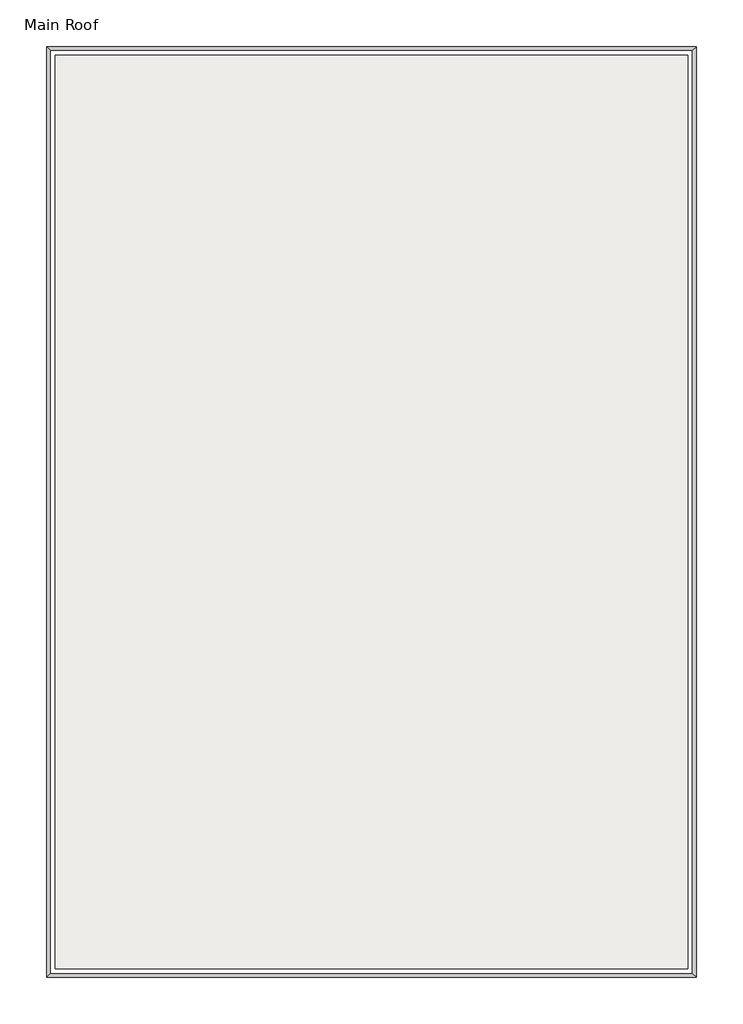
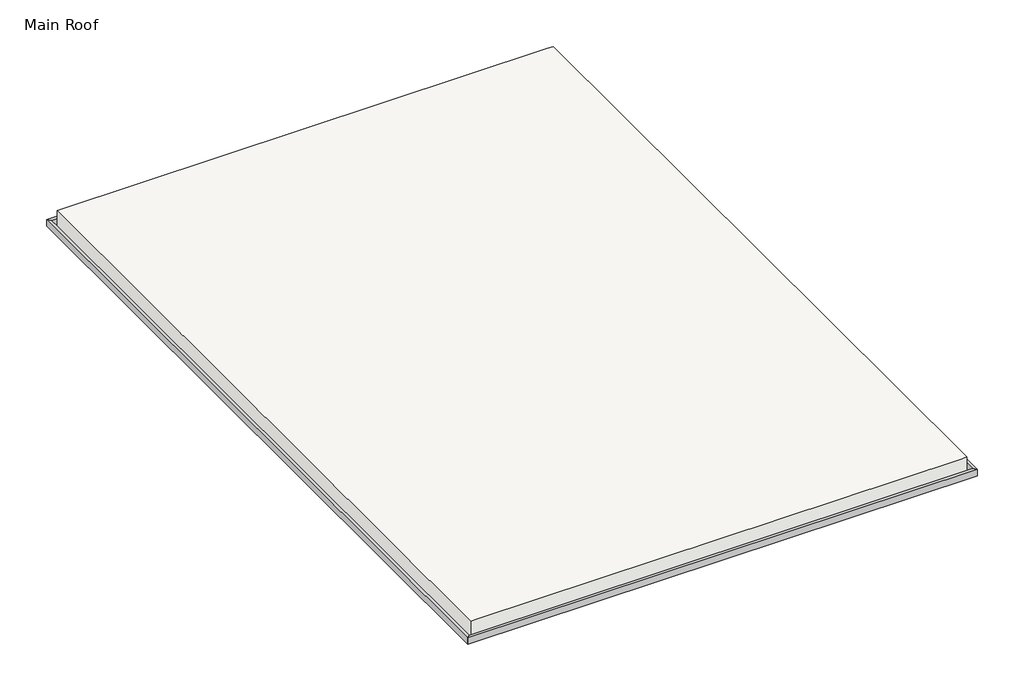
# One storey: 4 proxies, 1 roof.
"""IFC4 building model written with IfcOpenShell, lengths in millimetres."""

from ifc_helpers import new_model, si_unit, frame, origin, place, context, project, spatial, polyline, outline, extrude, faceted_brep, element, save

model = new_model("IFC4")

# Units and contexts
model_context = context("Model", 3, world=origin())
ifc_project = project(units=[si_unit("LENGTHUNIT", "METRE", prefix="MILLI")], contexts=[model_context])

# Site, building, storey
site = spatial("IfcSite", under=ifc_project)
building = spatial("IfcBuilding", under=site)
storey = spatial("IfcBuildingStorey", under=building, Name="Main Roof", Elevation=48768.0)

# Proxies
placement = place(None, origin())
element("IfcBuildingElementProxy", 1, Name="Wall Sweeps", at=placement, inside=storey, context=model_context, shape_type="Brep", body=[
    faceted_brep([(-14865.3792336, 22070.9355156, 48971.2), (-14865.3792336, 22070.9355156, 48768.0), (-14773.3042336, 21978.8605156, 48768.0), (-14773.3042336, 21978.8605156, 48971.2), (657.1957664, 22070.9355156, 48971.2), (565.1207664, 21978.8605156, 48971.2), (565.1207664, 21978.8605156, 48768.0), (657.1957664, 22070.9355156, 48768.0), (288.8957664, 21978.8605156, 48768.0), (288.8957664, 21978.8605156, 48971.2)], [[[0, 1, 2, 3]], [[4, 5, 6, 7]], [[1, 0, 4, 7]], [[2, 1, 7, 6, 8]], [[3, 2, 8, 6, 5, 9]], [[0, 3, 9, 5, 4]]]),
])
element("IfcBuildingElementProxy", 2, Name="Wall Sweeps", at=placement, inside=storey, context=model_context, shape_type="Brep", body=[
    faceted_brep([(-14865.3792336, -157.2394844, 48971.2), (-14865.3792336, -157.2394844, 48768.0), (-14773.3042336, -65.1644844, 48768.0), (-14773.3042336, -65.1644844, 48971.2), (-14865.3792336, 22070.9355156, 48971.2), (-14773.3042336, 21978.8605156, 48971.2), (-14773.3042336, 21978.8605156, 48768.0), (-14865.3792336, 22070.9355156, 48768.0), (-14773.3042336, 21702.6355156, 48768.0), (-14773.3042336, 21702.6355156, 48971.2)], [[[0, 1, 2, 3]], [[4, 5, 6, 7]], [[1, 0, 4, 7]], [[2, 1, 7, 6, 8]], [[3, 2, 8, 6, 5, 9]], [[0, 3, 9, 5, 4]]]),
])
element("IfcBuildingElementProxy", 3, Name="Wall Sweeps", at=placement, inside=storey, context=model_context, shape_type="SweptSolid", body=[
    extrude(outline(polyline([(565.1207664, -65.1644844), (657.1957664, -157.2394844), (-14865.3792336, -157.2394844), (-14773.3042336, -65.1644844), (565.1207664, -65.1644844)])), frame((0.0, 0.0, 48768.0), z_axis=(0.0, 0.0, 1.0), x_axis=(1.0, 0.0, 0.0)), (0.0, 0.0, 1.0), 203.2),
])
element("IfcBuildingElementProxy", 4, Name="Wall Sweeps", at=placement, inside=storey, context=model_context, shape_type="SweptSolid", body=[
    extrude(outline(polyline([(565.1207664, 21978.8605156), (657.1957664, 22070.9355156), (657.1957664, -157.2394844), (565.1207664, -65.1644844), (565.1207664, 21978.8605156)])), frame((0.0, 0.0, 48768.0), z_axis=(0.0, 0.0, 1.0), x_axis=(1.0, 0.0, 0.0)), (0.0, 0.0, 1.0), 203.2),
])

# Roof
element("IfcRoof", 5, ObjectType="Steel Truss - Insulation on Metal Deck - EPDM", at=placement, inside=storey, context=model_context, shape_type="Brep", body=[
    faceted_brep([(-14662.1792336, 21867.7355156, 49314.1), (-14662.1792336, 21702.6355156, 49314.1), (-14662.1792336, 45.9605156, 49314.1), (-14497.0792336, 45.9605156, 49314.1), (288.8957664, 45.9605156, 49314.1), (453.9957664, 45.9605156, 49314.1), (453.9957664, 21867.7355156, 49314.1), (288.8957664, 21867.7355156, 49314.1), (-14662.1792336, 21867.7355156, 48768.0), (288.8957664, 21867.7355156, 48768.0), (453.9957664, 21867.7355156, 48768.0), (453.9957664, 45.9605156, 48768.0), (288.8957664, 45.9605156, 48768.0), (-14497.0792336, 45.9605156, 48768.0), (-14662.1792336, 45.9605156, 48768.0), (-14662.1792336, 21702.6355156, 48768.0)], [[[0, 1, 2, 3, 4, 5, 6, 7]], [[8, 9, 10, 11, 12, 13, 14, 15]], [[2, 1, 0, 8, 15, 14]], [[5, 4, 3, 2, 14, 13, 12, 11]], [[6, 5, 11, 10]], [[0, 7, 6, 10, 9, 8]]]),
])

save(model, "model.ifc")
